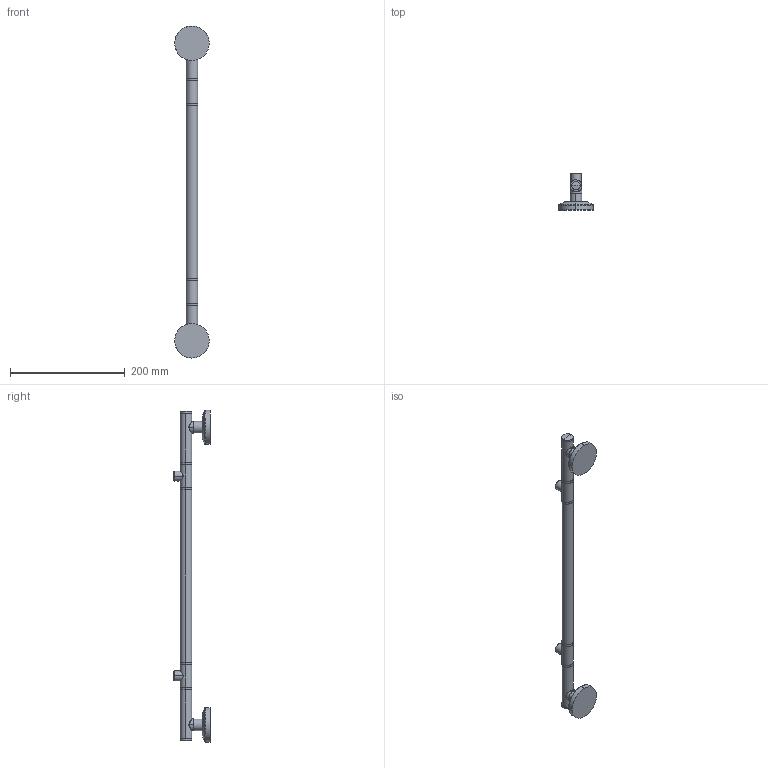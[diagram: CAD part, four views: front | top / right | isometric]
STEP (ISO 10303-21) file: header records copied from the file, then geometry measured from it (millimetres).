
FILE_DESCRIPTION(('THIS FILE CONTAINS SOME STEP INSTANCES'),'1');
FILE_NAME('sta_074.stp','2015-12-09T14:37:07',('UNDEFINED'),('UNDEFINED'),'T-FLEX CAD STEP converter','T-FLEX CAD','');
FILE_SCHEMA(('CONFIG_CONTROL_DESIGN'));
Length unit declared in the file: metre
Products named in the file (4): 3D 鐨飹懤艜_29; 3D 鐨飹懤艜_21; 髓礤轫 爨耨桠_6
Bounding box: 59.97 x 62.9 x 578 mm (x, y, z)
Volume: 265604.1 mm3; surface area: 57792.6 mm2
Topology: 4 solids, 6 shells, 154 faces, 324 edges, 186 vertices
Faces by surface type: cylinder 54, cone 48, plane 22, bspline 18, torus 8, sphere 4
Entity records: 13189 total; most frequent: CARTESIAN_POINT 10443, ORIENTED_EDGE 640, DIRECTION 428, EDGE_CURVE 320, VERTEX_POINT 186, EDGE_LOOP 166, AXIS2_PLACEMENT_3D 163, ADVANCED_FACE 154
